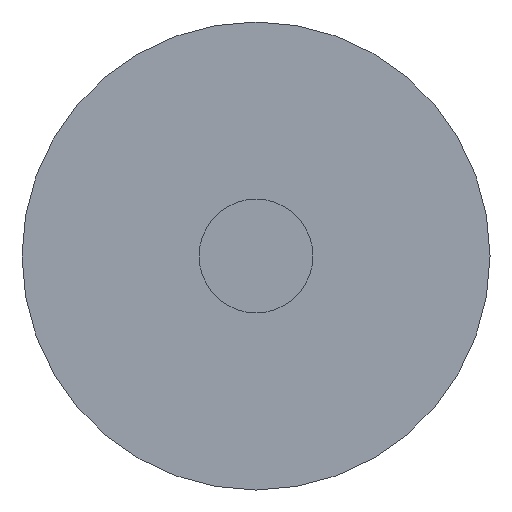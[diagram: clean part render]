
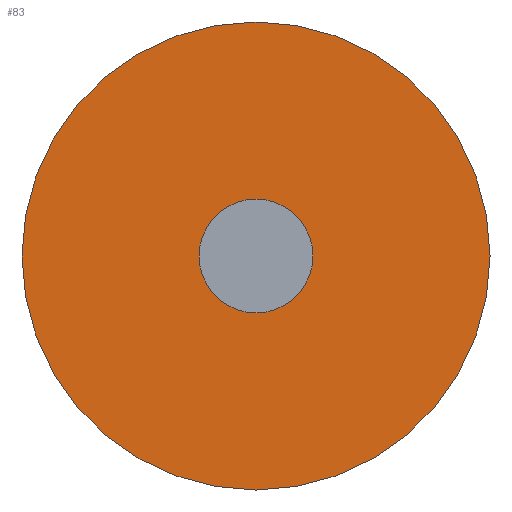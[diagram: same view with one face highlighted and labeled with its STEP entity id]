
A CAD part, left-side view. The second image highlights one B-rep face of the part: STEP entity #83.
In plain terms, the highlighted planar face has unit normal (-1, 0, 0).
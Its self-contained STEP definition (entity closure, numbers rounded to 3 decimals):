
#19=PLANE('',#98);
#29=FACE_OUTER_BOUND('',#39,.T.);
#39=EDGE_LOOP('',(#69));
#50=CIRCLE('',#97,0.925);
#56=VERTEX_POINT('',#146);
#62=EDGE_CURVE('',#56,#56,#50,.T.);
#69=ORIENTED_EDGE('',*,*,#62,.T.);
#83=ADVANCED_FACE('',(#29),#19,.F.);
#97=AXIS2_PLACEMENT_3D('',#147,#116,#117);
#98=AXIS2_PLACEMENT_3D('',#148,#118,#119);
#116=DIRECTION('center_axis',(-1.,0.,0.));
#117=DIRECTION('ref_axis',(0.,-1.,0.));
#118=DIRECTION('center_axis',(1.,0.,0.));
#119=DIRECTION('ref_axis',(0.,0.,-1.));
#146=CARTESIAN_POINT('',(0.,0.925,0.));
#147=CARTESIAN_POINT('Origin',(0.,0.,0.));
#148=CARTESIAN_POINT('Origin',(0.,0.,0.));
